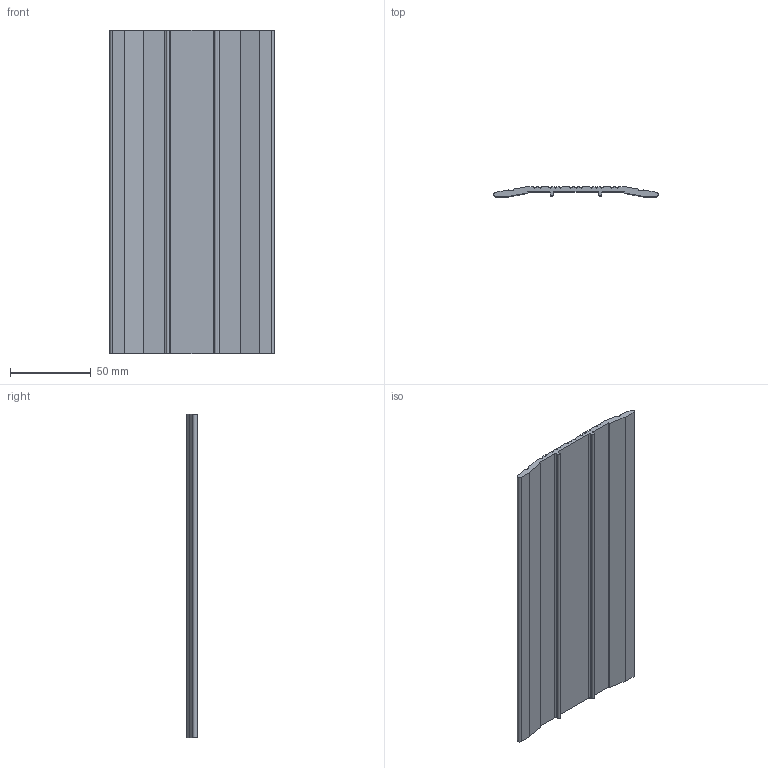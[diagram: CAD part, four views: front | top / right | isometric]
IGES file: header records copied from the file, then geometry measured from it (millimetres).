
Global section: file name: No Iges File Name specified; native system: Autodesk Inventor 2012; preprocessor: AutoDesk Inventor Iges Exporter R2012; author: anna.b; date: 20130614.100925; units: millimetre
Bounding box: 101.6 x 6.35 x 200 mm (x, y, z)
Volume: 65562.4 mm3; surface area: 47023.2 mm2
Topology: 1 solids, 1 shells, 58 faces, 168 edges, 112 vertices
Faces by surface type: plane 35, revolution 19, cylinder 4
